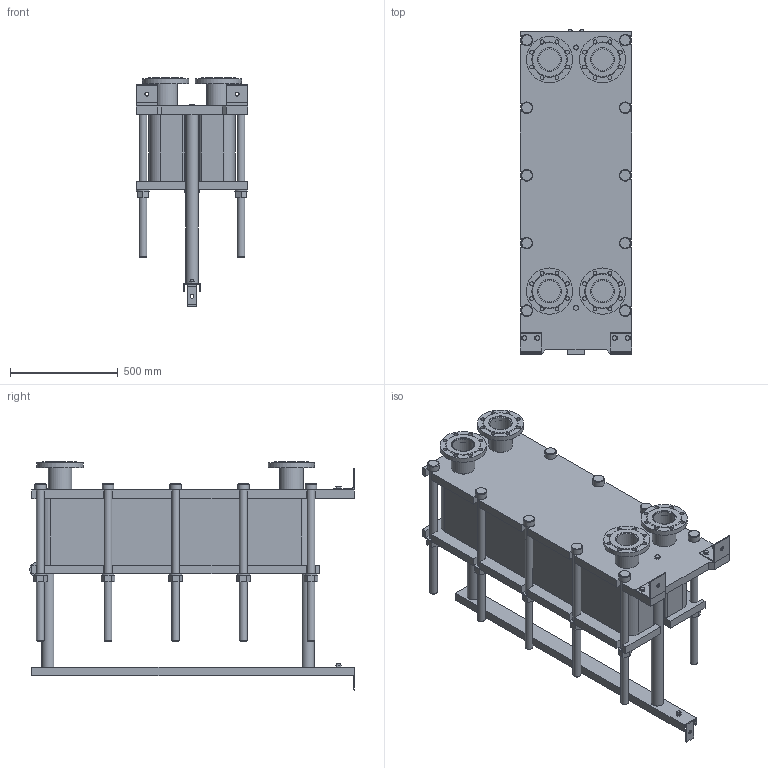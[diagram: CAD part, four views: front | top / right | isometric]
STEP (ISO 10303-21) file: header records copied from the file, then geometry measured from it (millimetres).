
FILE_DESCRIPTION(/* description */ (''),/* implementation_level */ '2;1');
FILE_NAME(/* name */ 'C:\Users\zhuro\Desktop\ENCO\TO\ЭН-04\ЭН-0,5-04-90-1.stp',/* time_stamp */ '2022-06-06T10:52:50+03:00',/* author */ ('zhuro'),/* organization */ (''),/* preprocessor_version */ 'ST-DEVELOPER v18.1',/* originating_system */ 'Autodesk Inventor 2022',/* authorisation */ '');
FILE_SCHEMA (('AUTOMOTIVE_DESIGN { 1 0 10303 214 3 1 1 }'));
Length unit declared in the file: millimetre
Products named in the file (1): ЭН-0,5-04-90-1
Bounding box: 520 x 1510 x 1060 mm (x, y, z)
Volume: 225841792 mm3; surface area: 8135361 mm2
Topology: 45 solids, 45 shells, 668 faces, 1611 edges, 1048 vertices
Faces by surface type: plane 457, cylinder 166, cone 39, torus 6
Full cylindrical faces by diameter (mm): 8 x4, 10 x2, 16 x8, 18 x35, 36 x25, 40 x2, 42 x1, 45 x4, 54 x10, 57 x2, 60 x10, 68 x2, 100 x4, 110 x8, 215 x4
Entity records: 23607 total; most frequent: CARTESIAN_POINT 7348, DIRECTION 3371, ORIENTED_EDGE 3142, EDGE_CURVE 1571, AXIS2_PLACEMENT_3D 1199, VERTEX_POINT 1044, LINE 973, VECTOR 973
